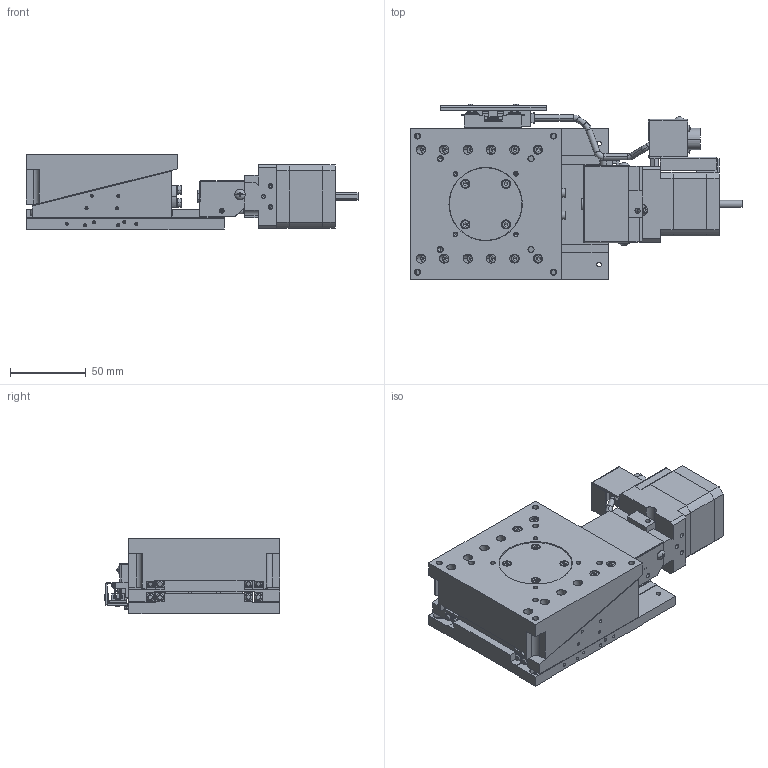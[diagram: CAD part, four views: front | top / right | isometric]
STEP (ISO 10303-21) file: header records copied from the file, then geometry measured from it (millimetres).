
FILE_DESCRIPTION (( 'STEP AP203' ), '1' );
FILE_NAME ('ZA10A-W2C02.STEP', '2019-02-21T00:42:27', ( '' ), ( '' ), 'SwSTEP 2.0', 'SolidWorks 2018', '' );
FILE_SCHEMA (( 'CONFIG_CONTROL_DESIGN' ));
Length unit declared in the file: millimetre
Products named in the file (5): table; base; base-Part-1; secound table; ZA10A-W2C02
Assembly tree (4 placements, depth 3):
  ZA10A-W2C02
    base
      base-Part-1
    table
    secound table
Bounding box: 219.5 x 116.18 x 50 mm (x, y, z)
Volume: 622181.8 mm3; surface area: 148910.4 mm2
Topology: 3 solids, 4 shells, 2554 faces, 6236 edges, 3771 vertices
Faces by surface type: plane 1482, cylinder 633, cone 385, torus 28, sphere 26
Entity records: 74750 total; most frequent: CARTESIAN_POINT 13471, DIRECTION 13244, ORIENTED_EDGE 12208, EDGE_CURVE 6104, AXIS2_PLACEMENT_3D 4732, VECTOR 3780, LINE 3780, VERTEX_POINT 3765
